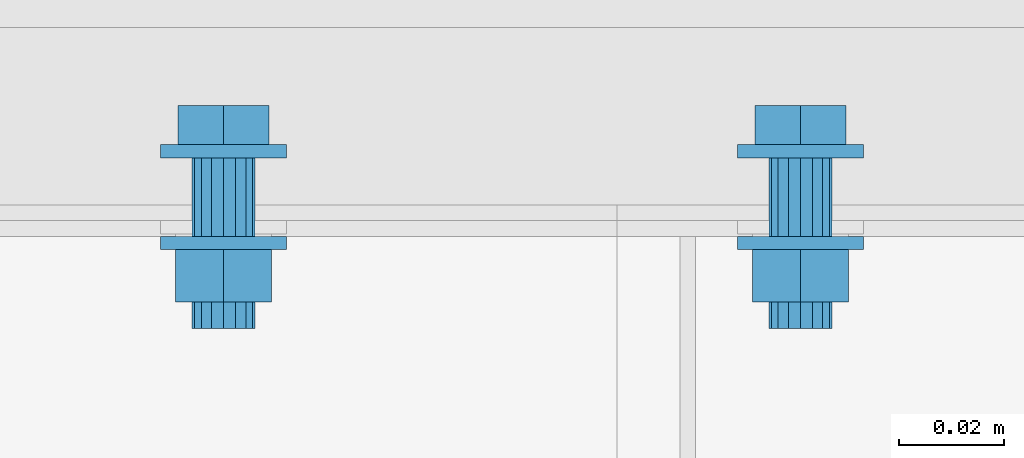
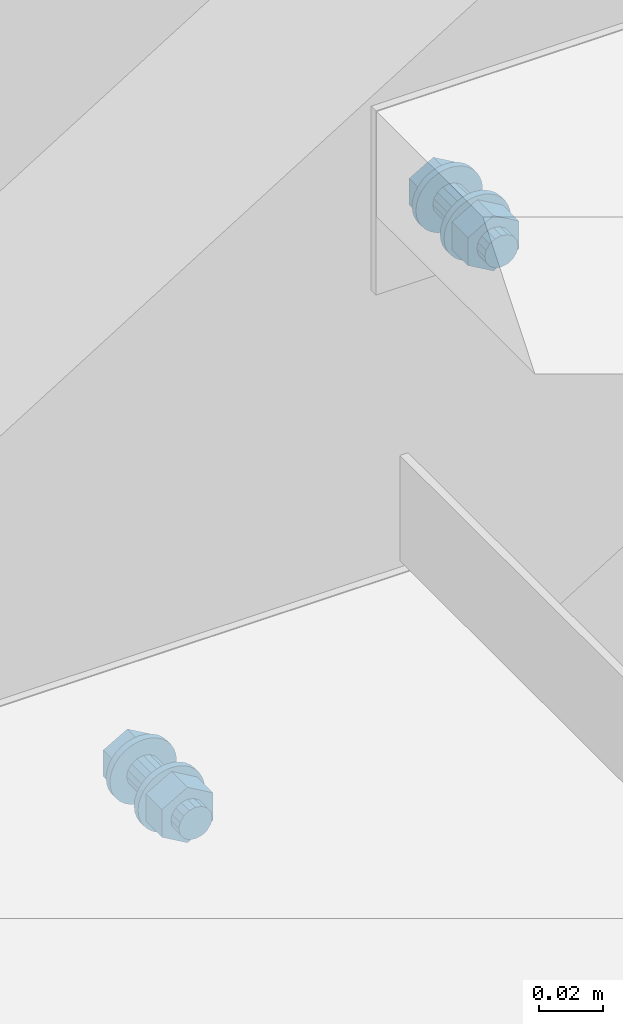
# One storey, part 282 of 410: 2 mechanical fasteners.
"""IFC2X3 building model written with IfcOpenShell, lengths in millimetres."""

from ifc_helpers import new_model, entity, si_unit, converted_unit, origin_with_axes, place, context, project, spatial, faceted_brep, element, save


model = new_model("IFC2X3")

# Units and contexts
model_context = context("Model", 3, precision=1e-09, world=origin_with_axes())
ifc_project = project(units=[si_unit("LENGTHUNIT", "METRE", prefix="MILLI"), si_unit("AREAUNIT", "SQUARE_METRE"), si_unit("VOLUMEUNIT", "CUBIC_METRE"), converted_unit("PLANEANGLEUNIT", "DEGREE", entity("IfcPlaneAngleMeasure", 0.01745329), si_unit("PLANEANGLEUNIT", "RADIAN"), dimensions=[0, 0, 0, 0, 0, 0, 0])], contexts=[model_context])

# Site, building, storey
site_placement = place(None, origin_with_axes())
site = spatial("IfcSite", under=ifc_project, at=site_placement, Name="mKR Teilneubau & Sanierung BA1 - Ostfildern", CompositionType="ELEMENT")
building_placement = place(site_placement, origin_with_axes())
building = spatial("IfcBuilding", under=site, at=building_placement, Name="Struktur 1", CompositionType="ELEMENT")
storey_placement = place(building_placement, origin_with_axes())
storey = spatial("IfcBuildingStorey", under=building, at=storey_placement, Name="Default Storey", CompositionType="ELEMENT", Elevation=0.0)

# Mechanical fasteners
mechanical_fastener_1_placement = place(None, origin_with_axes())
element("IfcMechanicalFastener", 1, at=mechanical_fastener_1_placement, inside=storey, ObjectType="Bolt", NominalDiameter=12.0, NominalLength=35.0, context=model_context, shape_type="Brep", body=[
    faceted_brep([(-52.0, 16731.499999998, -3452.2), (-52.0, 16728.999999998, -3452.2), (-51.769423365, 16728.999999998, -3449.858916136), (-51.769423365, 16731.499999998, -3449.858916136), (-51.08655439, 16728.999999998, -3447.607798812), (-51.08655439, 16731.499999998, -3447.607798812), (-49.977635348, 16728.999999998, -3445.533157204), (-49.977635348, 16731.499999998, -3445.533157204), (-48.485281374, 16728.999999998, -3443.714718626), (-48.485281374, 16731.499999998, -3443.714718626), (-46.666842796, 16728.999999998, -3442.222364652), (-46.666842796, 16731.499999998, -3442.222364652), (-44.592201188, 16728.999999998, -3441.11344561), (-44.592201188, 16731.499999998, -3441.11344561), (-42.341083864, 16728.999999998, -3440.430576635), (-42.341083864, 16731.499999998, -3440.430576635), (-40.0, 16728.999999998, -3440.2), (-40.0, 16731.499999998, -3440.2), (-37.658916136, 16728.999999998, -3440.430576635), (-37.658916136, 16731.499999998, -3440.430576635), (-35.407798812, 16728.999999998, -3441.11344561), (-35.407798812, 16731.499999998, -3441.11344561), (-33.333157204, 16728.999999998, -3442.222364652), (-33.333157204, 16731.499999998, -3442.222364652), (-31.514718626, 16728.999999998, -3443.714718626), (-31.514718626, 16731.499999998, -3443.714718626), (-30.022364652, 16728.999999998, -3445.533157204), (-30.022364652, 16731.499999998, -3445.533157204), (-28.91344561, 16728.999999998, -3447.607798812), (-28.91344561, 16731.499999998, -3447.607798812), (-28.230576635, 16728.999999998, -3449.858916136), (-28.230576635, 16731.499999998, -3449.858916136), (-28.0, 16728.999999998, -3452.2), (-28.0, 16731.499999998, -3452.2), (-28.230576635, 16728.999999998, -3454.541083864), (-28.230576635, 16731.499999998, -3454.541083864), (-28.91344561, 16728.999999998, -3456.792201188), (-28.91344561, 16731.499999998, -3456.792201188), (-30.022364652, 16728.999999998, -3458.866842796), (-30.022364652, 16731.499999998, -3458.866842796), (-31.514718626, 16728.999999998, -3460.685281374), (-31.514718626, 16731.499999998, -3460.685281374), (-33.333157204, 16728.999999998, -3462.177635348), (-33.333157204, 16731.499999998, -3462.177635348), (-35.407798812, 16728.999999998, -3463.28655439), (-35.407798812, 16731.499999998, -3463.28655439), (-37.658916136, 16728.999999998, -3463.969423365), (-37.658916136, 16731.499999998, -3463.969423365), (-40.0, 16728.999999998, -3464.2), (-40.0, 16731.499999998, -3464.2), (-42.341083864, 16728.999999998, -3463.969423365), (-42.341083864, 16731.499999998, -3463.969423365), (-44.592201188, 16728.999999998, -3463.28655439), (-44.592201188, 16731.499999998, -3463.28655439), (-46.666842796, 16728.999999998, -3462.177635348), (-46.666842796, 16731.499999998, -3462.177635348), (-48.485281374, 16728.999999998, -3460.685281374), (-48.485281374, 16731.499999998, -3460.685281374), (-49.977635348, 16728.999999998, -3458.866842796), (-49.977635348, 16731.499999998, -3458.866842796), (-51.08655439, 16728.999999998, -3456.792201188), (-51.08655439, 16731.499999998, -3456.792201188), (-51.769423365, 16728.999999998, -3454.541083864), (-51.769423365, 16731.499999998, -3454.541083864)], [[[0, 1, 2, 3]], [[3, 2, 4, 5]], [[5, 4, 6, 7]], [[7, 6, 8, 9]], [[9, 8, 10, 11]], [[11, 10, 12, 13]], [[13, 12, 14, 15]], [[15, 14, 16, 17]], [[17, 16, 18, 19]], [[19, 18, 20, 21]], [[21, 20, 22, 23]], [[23, 22, 24, 25]], [[25, 24, 26, 27]], [[27, 26, 28, 29]], [[29, 28, 30, 31]], [[31, 30, 32, 33]], [[33, 32, 34, 35]], [[35, 34, 36, 37]], [[37, 36, 38, 39]], [[39, 38, 40, 41]], [[41, 40, 42, 43]], [[43, 42, 44, 45]], [[45, 44, 46, 47]], [[47, 46, 48, 49]], [[49, 48, 50, 51]], [[51, 50, 52, 53]], [[53, 52, 54, 55]], [[55, 54, 56, 57]], [[57, 56, 58, 59]], [[59, 58, 60, 61]], [[61, 60, 62, 63]], [[63, 62, 1, 0]], [[0, 3, 5, 7, 9, 11, 13, 15, 17, 19, 21, 23, 25, 27, 29, 31, 33, 35, 37, 39, 41, 43, 45, 47, 49, 51, 53, 55, 57, 59, 61, 63]], [[1, 62, 60, 58, 56, 54, 52, 50, 48, 46, 44, 42, 40, 38, 36, 34, 32, 30, 28, 26, 24, 22, 20, 18, 16, 14, 12, 10, 8, 6, 4, 2]]]),
    faceted_brep([(-31.326755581, 16731.499999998, -3447.1925), (-31.326755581, 16738.999999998, -3447.1925), (-40.0, 16738.999999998, -3442.185), (-40.0, 16731.499999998, -3442.185), (-48.673244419, 16738.999999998, -3447.1925), (-48.673244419, 16731.499999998, -3447.1925), (-48.673244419, 16738.999999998, -3457.2075), (-48.673244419, 16731.499999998, -3457.2075), (-40.0, 16738.999999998, -3462.215), (-40.0, 16731.499999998, -3462.215), (-31.326755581, 16738.999999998, -3457.2075), (-31.326755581, 16731.499999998, -3457.2075)], [[[0, 1, 2, 3]], [[3, 2, 4, 5]], [[5, 4, 6, 7]], [[7, 6, 8, 9]], [[9, 8, 10, 11]], [[11, 10, 1, 0]], [[4, 2, 1, 10, 8, 6]], [[0, 3, 5, 7, 9, 11]]]),
    faceted_brep([(-46.0, 16728.999999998, -3452.2), (-46.0, 16713.999999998, -3452.2), (-45.543277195, 16713.999999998, -3449.903899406), (-45.543277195, 16728.999999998, -3449.903899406), (-44.242640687, 16713.999999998, -3447.957359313), (-44.242640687, 16728.999999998, -3447.957359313), (-42.296100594, 16713.999999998, -3446.656722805), (-42.296100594, 16728.999999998, -3446.656722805), (-40.0, 16713.999999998, -3446.2), (-40.0, 16728.999999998, -3446.2), (-37.703899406, 16713.999999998, -3446.656722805), (-37.703899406, 16728.999999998, -3446.656722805), (-35.757359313, 16713.999999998, -3447.957359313), (-35.757359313, 16728.999999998, -3447.957359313), (-34.456722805, 16713.999999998, -3449.903899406), (-34.456722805, 16728.999999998, -3449.903899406), (-34.0, 16713.999999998, -3452.2), (-34.0, 16728.999999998, -3452.2), (-34.456722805, 16713.999999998, -3454.496100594), (-34.456722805, 16728.999999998, -3454.496100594), (-35.757359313, 16713.999999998, -3456.442640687), (-35.757359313, 16728.999999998, -3456.442640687), (-37.703899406, 16713.999999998, -3457.743277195), (-37.703899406, 16728.999999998, -3457.743277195), (-40.0, 16713.999999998, -3458.2), (-40.0, 16728.999999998, -3458.2), (-42.296100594, 16713.999999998, -3457.743277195), (-42.296100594, 16728.999999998, -3457.743277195), (-44.242640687, 16713.999999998, -3456.442640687), (-44.242640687, 16728.999999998, -3456.442640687), (-45.543277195, 16713.999999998, -3454.496100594), (-45.543277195, 16728.999999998, -3454.496100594)], [[[0, 1, 2, 3]], [[3, 2, 4, 5]], [[5, 4, 6, 7]], [[7, 6, 8, 9]], [[9, 8, 10, 11]], [[11, 10, 12, 13]], [[13, 12, 14, 15]], [[15, 14, 16, 17]], [[17, 16, 18, 19]], [[19, 18, 20, 21]], [[21, 20, 22, 23]], [[23, 22, 24, 25]], [[25, 24, 26, 27]], [[27, 26, 28, 29]], [[29, 28, 30, 31]], [[31, 30, 1, 0]], [[0, 3, 5, 7, 9, 11, 13, 15, 17, 19, 21, 23, 25, 27, 29, 31]], [[1, 30, 28, 26, 24, 22, 20, 18, 16, 14, 12, 10, 8, 6, 4, 2]]]),
    faceted_brep([(-52.0, 16713.999999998, -3452.2), (-52.0, 16711.499999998, -3452.2), (-51.769423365, 16711.499999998, -3449.858916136), (-51.769423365, 16713.999999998, -3449.858916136), (-51.08655439, 16711.499999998, -3447.607798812), (-51.08655439, 16713.999999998, -3447.607798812), (-49.977635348, 16711.499999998, -3445.533157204), (-49.977635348, 16713.999999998, -3445.533157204), (-48.485281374, 16711.499999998, -3443.714718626), (-48.485281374, 16713.999999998, -3443.714718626), (-46.666842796, 16711.499999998, -3442.222364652), (-46.666842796, 16713.999999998, -3442.222364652), (-44.592201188, 16711.499999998, -3441.11344561), (-44.592201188, 16713.999999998, -3441.11344561), (-42.341083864, 16711.499999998, -3440.430576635), (-42.341083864, 16713.999999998, -3440.430576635), (-40.0, 16711.499999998, -3440.2), (-40.0, 16713.999999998, -3440.2), (-37.658916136, 16711.499999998, -3440.430576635), (-37.658916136, 16713.999999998, -3440.430576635), (-35.407798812, 16711.499999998, -3441.11344561), (-35.407798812, 16713.999999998, -3441.11344561), (-33.333157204, 16711.499999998, -3442.222364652), (-33.333157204, 16713.999999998, -3442.222364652), (-31.514718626, 16711.499999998, -3443.714718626), (-31.514718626, 16713.999999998, -3443.714718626), (-30.022364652, 16711.499999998, -3445.533157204), (-30.022364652, 16713.999999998, -3445.533157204), (-28.91344561, 16711.499999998, -3447.607798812), (-28.91344561, 16713.999999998, -3447.607798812), (-28.230576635, 16711.499999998, -3449.858916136), (-28.230576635, 16713.999999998, -3449.858916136), (-28.0, 16711.499999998, -3452.2), (-28.0, 16713.999999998, -3452.2), (-28.230576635, 16711.499999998, -3454.541083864), (-28.230576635, 16713.999999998, -3454.541083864), (-28.91344561, 16711.499999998, -3456.792201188), (-28.91344561, 16713.999999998, -3456.792201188), (-30.022364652, 16711.499999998, -3458.866842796), (-30.022364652, 16713.999999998, -3458.866842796), (-31.514718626, 16711.499999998, -3460.685281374), (-31.514718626, 16713.999999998, -3460.685281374), (-33.333157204, 16711.499999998, -3462.177635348), (-33.333157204, 16713.999999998, -3462.177635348), (-35.407798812, 16711.499999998, -3463.28655439), (-35.407798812, 16713.999999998, -3463.28655439), (-37.658916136, 16711.499999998, -3463.969423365), (-37.658916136, 16713.999999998, -3463.969423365), (-40.0, 16711.499999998, -3464.2), (-40.0, 16713.999999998, -3464.2), (-42.341083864, 16711.499999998, -3463.969423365), (-42.341083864, 16713.999999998, -3463.969423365), (-44.592201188, 16711.499999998, -3463.28655439), (-44.592201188, 16713.999999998, -3463.28655439), (-46.666842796, 16711.499999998, -3462.177635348), (-46.666842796, 16713.999999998, -3462.177635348), (-48.485281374, 16711.499999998, -3460.685281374), (-48.485281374, 16713.999999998, -3460.685281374), (-49.977635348, 16711.499999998, -3458.866842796), (-49.977635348, 16713.999999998, -3458.866842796), (-51.08655439, 16711.499999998, -3456.792201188), (-51.08655439, 16713.999999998, -3456.792201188), (-51.769423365, 16711.499999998, -3454.541083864), (-51.769423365, 16713.999999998, -3454.541083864)], [[[0, 1, 2, 3]], [[3, 2, 4, 5]], [[5, 4, 6, 7]], [[7, 6, 8, 9]], [[9, 8, 10, 11]], [[11, 10, 12, 13]], [[13, 12, 14, 15]], [[15, 14, 16, 17]], [[17, 16, 18, 19]], [[19, 18, 20, 21]], [[21, 20, 22, 23]], [[23, 22, 24, 25]], [[25, 24, 26, 27]], [[27, 26, 28, 29]], [[29, 28, 30, 31]], [[31, 30, 32, 33]], [[33, 32, 34, 35]], [[35, 34, 36, 37]], [[37, 36, 38, 39]], [[39, 38, 40, 41]], [[41, 40, 42, 43]], [[43, 42, 44, 45]], [[45, 44, 46, 47]], [[47, 46, 48, 49]], [[49, 48, 50, 51]], [[51, 50, 52, 53]], [[53, 52, 54, 55]], [[55, 54, 56, 57]], [[57, 56, 58, 59]], [[59, 58, 60, 61]], [[61, 60, 62, 63]], [[63, 62, 1, 0]], [[0, 3, 5, 7, 9, 11, 13, 15, 17, 19, 21, 23, 25, 27, 29, 31, 33, 35, 37, 39, 41, 43, 45, 47, 49, 51, 53, 55, 57, 59, 61, 63]], [[1, 62, 60, 58, 56, 54, 52, 50, 48, 46, 44, 42, 40, 38, 36, 34, 32, 30, 28, 26, 24, 22, 20, 18, 16, 14, 12, 10, 8, 6, 4, 2]]]),
    faceted_brep([(-30.86343199, 16701.499999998, -3446.925), (-30.86343199, 16711.499999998, -3446.925), (-40.0, 16711.499999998, -3441.65), (-40.0, 16701.499999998, -3441.65), (-49.13656801, 16711.499999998, -3446.925), (-49.13656801, 16701.499999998, -3446.925), (-49.13656801, 16711.499999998, -3457.475), (-49.13656801, 16701.499999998, -3457.475), (-40.0, 16711.499999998, -3462.75), (-40.0, 16701.499999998, -3462.75), (-30.86343199, 16711.499999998, -3457.475), (-30.86343199, 16701.499999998, -3457.475)], [[[0, 1, 2, 3]], [[3, 2, 4, 5]], [[5, 4, 6, 7]], [[7, 6, 8, 9]], [[9, 8, 10, 11]], [[11, 10, 1, 0]], [[4, 2, 1, 10, 8, 6]], [[0, 3, 5, 7, 9, 11]]]),
    faceted_brep([(-46.0, 16701.499999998, -3452.2), (-46.0, 16696.499999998, -3452.2), (-45.543277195, 16696.499999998, -3449.903899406), (-45.543277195, 16701.499999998, -3449.903899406), (-44.242640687, 16696.499999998, -3447.957359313), (-44.242640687, 16701.499999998, -3447.957359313), (-42.296100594, 16696.499999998, -3446.656722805), (-42.296100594, 16701.499999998, -3446.656722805), (-40.0, 16696.499999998, -3446.2), (-40.0, 16701.499999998, -3446.2), (-37.703899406, 16696.499999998, -3446.656722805), (-37.703899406, 16701.499999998, -3446.656722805), (-35.757359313, 16696.499999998, -3447.957359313), (-35.757359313, 16701.499999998, -3447.957359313), (-34.456722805, 16696.499999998, -3449.903899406), (-34.456722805, 16701.499999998, -3449.903899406), (-34.0, 16696.499999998, -3452.2), (-34.0, 16701.499999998, -3452.2), (-34.456722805, 16696.499999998, -3454.496100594), (-34.456722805, 16701.499999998, -3454.496100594), (-35.757359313, 16696.499999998, -3456.442640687), (-35.757359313, 16701.499999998, -3456.442640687), (-37.703899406, 16696.499999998, -3457.743277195), (-37.703899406, 16701.499999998, -3457.743277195), (-40.0, 16696.499999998, -3458.2), (-40.0, 16701.499999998, -3458.2), (-42.296100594, 16696.499999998, -3457.743277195), (-42.296100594, 16701.499999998, -3457.743277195), (-44.242640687, 16696.499999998, -3456.442640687), (-44.242640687, 16701.499999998, -3456.442640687), (-45.543277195, 16696.499999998, -3454.496100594), (-45.543277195, 16701.499999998, -3454.496100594)], [[[0, 1, 2, 3]], [[3, 2, 4, 5]], [[5, 4, 6, 7]], [[7, 6, 8, 9]], [[9, 8, 10, 11]], [[11, 10, 12, 13]], [[13, 12, 14, 15]], [[15, 14, 16, 17]], [[17, 16, 18, 19]], [[19, 18, 20, 21]], [[21, 20, 22, 23]], [[23, 22, 24, 25]], [[25, 24, 26, 27]], [[27, 26, 28, 29]], [[29, 28, 30, 31]], [[31, 30, 1, 0]], [[0, 3, 5, 7, 9, 11, 13, 15, 17, 19, 21, 23, 25, 27, 29, 31]], [[1, 30, 28, 26, 24, 22, 20, 18, 16, 14, 12, 10, 8, 6, 4, 2]]]),
])
mechanical_fastener_2_placement = place(None, origin_with_axes())
element("IfcMechanicalFastener", 2, at=mechanical_fastener_2_placement, inside=storey, ObjectType="Bolt", NominalDiameter=12.0, NominalLength=35.0, context=model_context, shape_type="Brep", body=[
    faceted_brep([(58.0, 16731.499999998, -3273.4), (58.0, 16728.999999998, -3273.4), (58.230576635, 16728.999999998, -3271.058916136), (58.230576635, 16731.499999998, -3271.058916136), (58.91344561, 16728.999999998, -3268.807798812), (58.91344561, 16731.499999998, -3268.807798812), (60.022364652, 16728.999999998, -3266.733157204), (60.022364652, 16731.499999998, -3266.733157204), (61.514718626, 16728.999999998, -3264.914718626), (61.514718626, 16731.499999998, -3264.914718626), (63.333157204, 16728.999999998, -3263.422364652), (63.333157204, 16731.499999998, -3263.422364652), (65.407798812, 16728.999999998, -3262.31344561), (65.407798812, 16731.499999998, -3262.31344561), (67.658916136, 16728.999999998, -3261.630576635), (67.658916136, 16731.499999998, -3261.630576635), (70.0, 16728.999999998, -3261.4), (70.0, 16731.499999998, -3261.4), (72.341083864, 16728.999999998, -3261.630576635), (72.341083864, 16731.499999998, -3261.630576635), (74.592201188, 16728.999999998, -3262.31344561), (74.592201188, 16731.499999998, -3262.31344561), (76.666842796, 16728.999999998, -3263.422364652), (76.666842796, 16731.499999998, -3263.422364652), (78.485281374, 16728.999999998, -3264.914718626), (78.485281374, 16731.499999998, -3264.914718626), (79.977635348, 16728.999999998, -3266.733157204), (79.977635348, 16731.499999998, -3266.733157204), (81.08655439, 16728.999999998, -3268.807798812), (81.08655439, 16731.499999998, -3268.807798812), (81.769423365, 16728.999999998, -3271.058916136), (81.769423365, 16731.499999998, -3271.058916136), (82.0, 16728.999999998, -3273.4), (82.0, 16731.499999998, -3273.4), (81.769423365, 16728.999999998, -3275.741083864), (81.769423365, 16731.499999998, -3275.741083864), (81.08655439, 16728.999999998, -3277.992201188), (81.08655439, 16731.499999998, -3277.992201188), (79.977635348, 16728.999999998, -3280.066842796), (79.977635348, 16731.499999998, -3280.066842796), (78.485281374, 16728.999999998, -3281.885281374), (78.485281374, 16731.499999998, -3281.885281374), (76.666842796, 16728.999999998, -3283.377635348), (76.666842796, 16731.499999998, -3283.377635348), (74.592201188, 16728.999999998, -3284.48655439), (74.592201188, 16731.499999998, -3284.48655439), (72.341083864, 16728.999999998, -3285.169423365), (72.341083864, 16731.499999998, -3285.169423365), (70.0, 16728.999999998, -3285.4), (70.0, 16731.499999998, -3285.4), (67.658916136, 16728.999999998, -3285.169423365), (67.658916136, 16731.499999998, -3285.169423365), (65.407798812, 16728.999999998, -3284.48655439), (65.407798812, 16731.499999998, -3284.48655439), (63.333157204, 16728.999999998, -3283.377635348), (63.333157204, 16731.499999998, -3283.377635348), (61.514718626, 16728.999999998, -3281.885281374), (61.514718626, 16731.499999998, -3281.885281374), (60.022364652, 16728.999999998, -3280.066842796), (60.022364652, 16731.499999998, -3280.066842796), (58.91344561, 16728.999999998, -3277.992201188), (58.91344561, 16731.499999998, -3277.992201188), (58.230576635, 16728.999999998, -3275.741083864), (58.230576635, 16731.499999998, -3275.741083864)], [[[0, 1, 2, 3]], [[3, 2, 4, 5]], [[5, 4, 6, 7]], [[7, 6, 8, 9]], [[9, 8, 10, 11]], [[11, 10, 12, 13]], [[13, 12, 14, 15]], [[15, 14, 16, 17]], [[17, 16, 18, 19]], [[19, 18, 20, 21]], [[21, 20, 22, 23]], [[23, 22, 24, 25]], [[25, 24, 26, 27]], [[27, 26, 28, 29]], [[29, 28, 30, 31]], [[31, 30, 32, 33]], [[33, 32, 34, 35]], [[35, 34, 36, 37]], [[37, 36, 38, 39]], [[39, 38, 40, 41]], [[41, 40, 42, 43]], [[43, 42, 44, 45]], [[45, 44, 46, 47]], [[47, 46, 48, 49]], [[49, 48, 50, 51]], [[51, 50, 52, 53]], [[53, 52, 54, 55]], [[55, 54, 56, 57]], [[57, 56, 58, 59]], [[59, 58, 60, 61]], [[61, 60, 62, 63]], [[63, 62, 1, 0]], [[0, 3, 5, 7, 9, 11, 13, 15, 17, 19, 21, 23, 25, 27, 29, 31, 33, 35, 37, 39, 41, 43, 45, 47, 49, 51, 53, 55, 57, 59, 61, 63]], [[1, 62, 60, 58, 56, 54, 52, 50, 48, 46, 44, 42, 40, 38, 36, 34, 32, 30, 28, 26, 24, 22, 20, 18, 16, 14, 12, 10, 8, 6, 4, 2]]]),
    faceted_brep([(78.673244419, 16731.499999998, -3268.3925), (78.673244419, 16738.999999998, -3268.3925), (70.0, 16738.999999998, -3263.385), (70.0, 16731.499999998, -3263.385), (61.326755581, 16738.999999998, -3268.3925), (61.326755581, 16731.499999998, -3268.3925), (61.326755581, 16738.999999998, -3278.4075), (61.326755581, 16731.499999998, -3278.4075), (70.0, 16738.999999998, -3283.415), (70.0, 16731.499999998, -3283.415), (78.673244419, 16738.999999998, -3278.4075), (78.673244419, 16731.499999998, -3278.4075)], [[[0, 1, 2, 3]], [[3, 2, 4, 5]], [[5, 4, 6, 7]], [[7, 6, 8, 9]], [[9, 8, 10, 11]], [[11, 10, 1, 0]], [[4, 2, 1, 10, 8, 6]], [[0, 3, 5, 7, 9, 11]]]),
    faceted_brep([(64.0, 16728.999999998, -3273.4), (64.0, 16713.999999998, -3273.4), (64.456722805, 16713.999999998, -3271.103899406), (64.456722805, 16728.999999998, -3271.103899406), (65.757359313, 16713.999999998, -3269.157359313), (65.757359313, 16728.999999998, -3269.157359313), (67.703899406, 16713.999999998, -3267.856722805), (67.703899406, 16728.999999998, -3267.856722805), (70.0, 16713.999999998, -3267.4), (70.0, 16728.999999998, -3267.4), (72.296100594, 16713.999999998, -3267.856722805), (72.296100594, 16728.999999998, -3267.856722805), (74.242640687, 16713.999999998, -3269.157359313), (74.242640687, 16728.999999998, -3269.157359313), (75.543277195, 16713.999999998, -3271.103899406), (75.543277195, 16728.999999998, -3271.103899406), (76.0, 16713.999999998, -3273.4), (76.0, 16728.999999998, -3273.4), (75.543277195, 16713.999999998, -3275.696100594), (75.543277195, 16728.999999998, -3275.696100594), (74.242640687, 16713.999999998, -3277.642640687), (74.242640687, 16728.999999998, -3277.642640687), (72.296100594, 16713.999999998, -3278.943277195), (72.296100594, 16728.999999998, -3278.943277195), (70.0, 16713.999999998, -3279.4), (70.0, 16728.999999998, -3279.4), (67.703899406, 16713.999999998, -3278.943277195), (67.703899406, 16728.999999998, -3278.943277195), (65.757359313, 16713.999999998, -3277.642640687), (65.757359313, 16728.999999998, -3277.642640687), (64.456722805, 16713.999999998, -3275.696100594), (64.456722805, 16728.999999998, -3275.696100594)], [[[0, 1, 2, 3]], [[3, 2, 4, 5]], [[5, 4, 6, 7]], [[7, 6, 8, 9]], [[9, 8, 10, 11]], [[11, 10, 12, 13]], [[13, 12, 14, 15]], [[15, 14, 16, 17]], [[17, 16, 18, 19]], [[19, 18, 20, 21]], [[21, 20, 22, 23]], [[23, 22, 24, 25]], [[25, 24, 26, 27]], [[27, 26, 28, 29]], [[29, 28, 30, 31]], [[31, 30, 1, 0]], [[0, 3, 5, 7, 9, 11, 13, 15, 17, 19, 21, 23, 25, 27, 29, 31]], [[1, 30, 28, 26, 24, 22, 20, 18, 16, 14, 12, 10, 8, 6, 4, 2]]]),
    faceted_brep([(58.0, 16713.999999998, -3273.4), (58.0, 16711.499999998, -3273.4), (58.230576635, 16711.499999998, -3271.058916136), (58.230576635, 16713.999999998, -3271.058916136), (58.91344561, 16711.499999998, -3268.807798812), (58.91344561, 16713.999999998, -3268.807798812), (60.022364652, 16711.499999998, -3266.733157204), (60.022364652, 16713.999999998, -3266.733157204), (61.514718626, 16711.499999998, -3264.914718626), (61.514718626, 16713.999999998, -3264.914718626), (63.333157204, 16711.499999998, -3263.422364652), (63.333157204, 16713.999999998, -3263.422364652), (65.407798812, 16711.499999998, -3262.31344561), (65.407798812, 16713.999999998, -3262.31344561), (67.658916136, 16711.499999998, -3261.630576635), (67.658916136, 16713.999999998, -3261.630576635), (70.0, 16711.499999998, -3261.4), (70.0, 16713.999999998, -3261.4), (72.341083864, 16711.499999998, -3261.630576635), (72.341083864, 16713.999999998, -3261.630576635), (74.592201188, 16711.499999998, -3262.31344561), (74.592201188, 16713.999999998, -3262.31344561), (76.666842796, 16711.499999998, -3263.422364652), (76.666842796, 16713.999999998, -3263.422364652), (78.485281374, 16711.499999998, -3264.914718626), (78.485281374, 16713.999999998, -3264.914718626), (79.977635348, 16711.499999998, -3266.733157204), (79.977635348, 16713.999999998, -3266.733157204), (81.08655439, 16711.499999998, -3268.807798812), (81.08655439, 16713.999999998, -3268.807798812), (81.769423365, 16711.499999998, -3271.058916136), (81.769423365, 16713.999999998, -3271.058916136), (82.0, 16711.499999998, -3273.4), (82.0, 16713.999999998, -3273.4), (81.769423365, 16711.499999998, -3275.741083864), (81.769423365, 16713.999999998, -3275.741083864), (81.08655439, 16711.499999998, -3277.992201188), (81.08655439, 16713.999999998, -3277.992201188), (79.977635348, 16711.499999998, -3280.066842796), (79.977635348, 16713.999999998, -3280.066842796), (78.485281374, 16711.499999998, -3281.885281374), (78.485281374, 16713.999999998, -3281.885281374), (76.666842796, 16711.499999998, -3283.377635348), (76.666842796, 16713.999999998, -3283.377635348), (74.592201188, 16711.499999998, -3284.48655439), (74.592201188, 16713.999999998, -3284.48655439), (72.341083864, 16711.499999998, -3285.169423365), (72.341083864, 16713.999999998, -3285.169423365), (70.0, 16711.499999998, -3285.4), (70.0, 16713.999999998, -3285.4), (67.658916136, 16711.499999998, -3285.169423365), (67.658916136, 16713.999999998, -3285.169423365), (65.407798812, 16711.499999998, -3284.48655439), (65.407798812, 16713.999999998, -3284.48655439), (63.333157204, 16711.499999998, -3283.377635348), (63.333157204, 16713.999999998, -3283.377635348), (61.514718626, 16711.499999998, -3281.885281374), (61.514718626, 16713.999999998, -3281.885281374), (60.022364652, 16711.499999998, -3280.066842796), (60.022364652, 16713.999999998, -3280.066842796), (58.91344561, 16711.499999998, -3277.992201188), (58.91344561, 16713.999999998, -3277.992201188), (58.230576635, 16711.499999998, -3275.741083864), (58.230576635, 16713.999999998, -3275.741083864)], [[[0, 1, 2, 3]], [[3, 2, 4, 5]], [[5, 4, 6, 7]], [[7, 6, 8, 9]], [[9, 8, 10, 11]], [[11, 10, 12, 13]], [[13, 12, 14, 15]], [[15, 14, 16, 17]], [[17, 16, 18, 19]], [[19, 18, 20, 21]], [[21, 20, 22, 23]], [[23, 22, 24, 25]], [[25, 24, 26, 27]], [[27, 26, 28, 29]], [[29, 28, 30, 31]], [[31, 30, 32, 33]], [[33, 32, 34, 35]], [[35, 34, 36, 37]], [[37, 36, 38, 39]], [[39, 38, 40, 41]], [[41, 40, 42, 43]], [[43, 42, 44, 45]], [[45, 44, 46, 47]], [[47, 46, 48, 49]], [[49, 48, 50, 51]], [[51, 50, 52, 53]], [[53, 52, 54, 55]], [[55, 54, 56, 57]], [[57, 56, 58, 59]], [[59, 58, 60, 61]], [[61, 60, 62, 63]], [[63, 62, 1, 0]], [[0, 3, 5, 7, 9, 11, 13, 15, 17, 19, 21, 23, 25, 27, 29, 31, 33, 35, 37, 39, 41, 43, 45, 47, 49, 51, 53, 55, 57, 59, 61, 63]], [[1, 62, 60, 58, 56, 54, 52, 50, 48, 46, 44, 42, 40, 38, 36, 34, 32, 30, 28, 26, 24, 22, 20, 18, 16, 14, 12, 10, 8, 6, 4, 2]]]),
    faceted_brep([(79.13656801, 16701.499999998, -3268.125), (79.13656801, 16711.499999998, -3268.125), (70.0, 16711.499999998, -3262.85), (70.0, 16701.499999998, -3262.85), (60.86343199, 16711.499999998, -3268.125), (60.86343199, 16701.499999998, -3268.125), (60.86343199, 16711.499999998, -3278.675), (60.86343199, 16701.499999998, -3278.675), (70.0, 16711.499999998, -3283.95), (70.0, 16701.499999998, -3283.95), (79.13656801, 16711.499999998, -3278.675), (79.13656801, 16701.499999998, -3278.675)], [[[0, 1, 2, 3]], [[3, 2, 4, 5]], [[5, 4, 6, 7]], [[7, 6, 8, 9]], [[9, 8, 10, 11]], [[11, 10, 1, 0]], [[4, 2, 1, 10, 8, 6]], [[0, 3, 5, 7, 9, 11]]]),
    faceted_brep([(64.0, 16701.499999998, -3273.4), (64.0, 16696.499999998, -3273.4), (64.456722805, 16696.499999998, -3271.103899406), (64.456722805, 16701.499999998, -3271.103899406), (65.757359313, 16696.499999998, -3269.157359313), (65.757359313, 16701.499999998, -3269.157359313), (67.703899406, 16696.499999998, -3267.856722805), (67.703899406, 16701.499999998, -3267.856722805), (70.0, 16696.499999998, -3267.4), (70.0, 16701.499999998, -3267.4), (72.296100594, 16696.499999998, -3267.856722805), (72.296100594, 16701.499999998, -3267.856722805), (74.242640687, 16696.499999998, -3269.157359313), (74.242640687, 16701.499999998, -3269.157359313), (75.543277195, 16696.499999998, -3271.103899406), (75.543277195, 16701.499999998, -3271.103899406), (76.0, 16696.499999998, -3273.4), (76.0, 16701.499999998, -3273.4), (75.543277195, 16696.499999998, -3275.696100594), (75.543277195, 16701.499999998, -3275.696100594), (74.242640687, 16696.499999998, -3277.642640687), (74.242640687, 16701.499999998, -3277.642640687), (72.296100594, 16696.499999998, -3278.943277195), (72.296100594, 16701.499999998, -3278.943277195), (70.0, 16696.499999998, -3279.4), (70.0, 16701.499999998, -3279.4), (67.703899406, 16696.499999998, -3278.943277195), (67.703899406, 16701.499999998, -3278.943277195), (65.757359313, 16696.499999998, -3277.642640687), (65.757359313, 16701.499999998, -3277.642640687), (64.456722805, 16696.499999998, -3275.696100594), (64.456722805, 16701.499999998, -3275.696100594)], [[[0, 1, 2, 3]], [[3, 2, 4, 5]], [[5, 4, 6, 7]], [[7, 6, 8, 9]], [[9, 8, 10, 11]], [[11, 10, 12, 13]], [[13, 12, 14, 15]], [[15, 14, 16, 17]], [[17, 16, 18, 19]], [[19, 18, 20, 21]], [[21, 20, 22, 23]], [[23, 22, 24, 25]], [[25, 24, 26, 27]], [[27, 26, 28, 29]], [[29, 28, 30, 31]], [[31, 30, 1, 0]], [[0, 3, 5, 7, 9, 11, 13, 15, 17, 19, 21, 23, 25, 27, 29, 31]], [[1, 30, 28, 26, 24, 22, 20, 18, 16, 14, 12, 10, 8, 6, 4, 2]]]),
])

save(model, "model.ifc")
